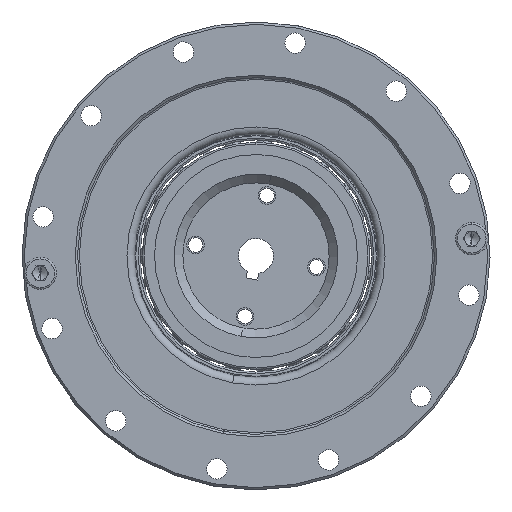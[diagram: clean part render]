
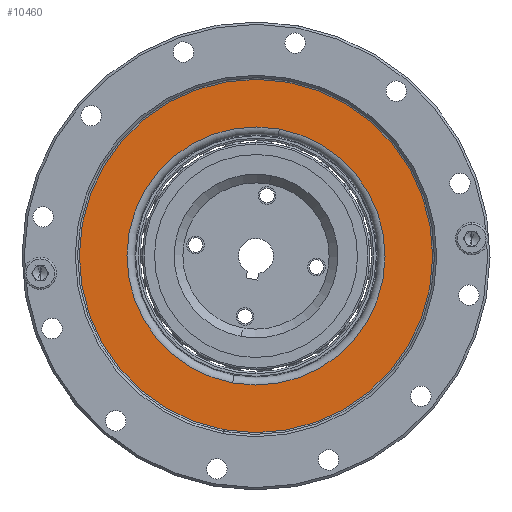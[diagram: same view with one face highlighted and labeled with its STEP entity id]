
A CAD part, left-side view. The second image highlights one B-rep face of the part: STEP entity #10460.
In plain terms, the highlighted planar face has unit normal (-1, 0, 0).
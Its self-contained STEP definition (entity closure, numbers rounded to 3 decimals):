
#9238=CARTESIAN_POINT('',(13.564,0.,0.));
#9239=DIRECTION('',(1.,0.,0.));
#9240=DIRECTION('',(0.,0.,1.));
#9241=AXIS2_PLACEMENT_3D('',#9238,#9239,#9240);
#9243=CARTESIAN_POINT('',(13.564,0.,0.));
#9244=DIRECTION('',(1.,0.,0.));
#9245=DIRECTION('',(0.,0.,-1.));
#9246=AXIS2_PLACEMENT_3D('',#9243,#9244,#9245);
#9248=CARTESIAN_POINT('',(13.564,0.,0.));
#9249=DIRECTION('',(-1.,0.,0.));
#9250=DIRECTION('',(0.,0.,-1.));
#9251=AXIS2_PLACEMENT_3D('',#9248,#9249,#9250);
#9253=CARTESIAN_POINT('',(13.564,0.,0.));
#9254=DIRECTION('',(-1.,0.,0.));
#9255=DIRECTION('',(0.,0.,1.));
#9256=AXIS2_PLACEMENT_3D('',#9253,#9254,#9255);
#9491=CARTESIAN_POINT('',(13.564,0.,22.061));
#9492=CARTESIAN_POINT('',(13.564,0.,
-22.061));
#9493=VERTEX_POINT('',#9491);
#9494=VERTEX_POINT('',#9492);
#9496=CARTESIAN_POINT('',(13.564,0.,30.2));
#9498=VERTEX_POINT('',#9496);
#9499=CARTESIAN_POINT('',(13.564,0.,
-30.2));
#9500=VERTEX_POINT('',#9499);
#10444=CARTESIAN_POINT('',(13.564,0.,0.));
#10445=DIRECTION('',(1.,0.,0.));
#10446=DIRECTION('',(0.,0.,-1.));
#10447=AXIS2_PLACEMENT_3D('',#10444,#10445,#10446);
#10448=PLANE('',#10447);
#10450=ORIENTED_EDGE('',*,*,#10449,.T.);
#10452=ORIENTED_EDGE('',*,*,#10451,.T.);
#10453=EDGE_LOOP('',(#10450,#10452));
#10454=FACE_OUTER_BOUND('',#10453,.F.);
#10456=ORIENTED_EDGE('',*,*,#10455,.T.);
#10457=ORIENTED_EDGE('',*,*,#10434,.T.);
#10458=EDGE_LOOP('',(#10456,#10457));
#10459=FACE_BOUND('',#10458,.F.);
#9242=CIRCLE('',#9241,30.2);
#9247=CIRCLE('',#9246,30.2);
#9252=CIRCLE('',#9251,22.061);
#9257=CIRCLE('',#9256,22.061);
#10434=EDGE_CURVE('',#9493,#9494,#9257,.T.);
#10449=EDGE_CURVE('',#9498,#9500,#9242,.T.);
#10451=EDGE_CURVE('',#9500,#9498,#9247,.T.);
#10455=EDGE_CURVE('',#9494,#9493,#9252,.T.);
#10460=ADVANCED_FACE('',(#10454,#10459),#10448,.F.);
